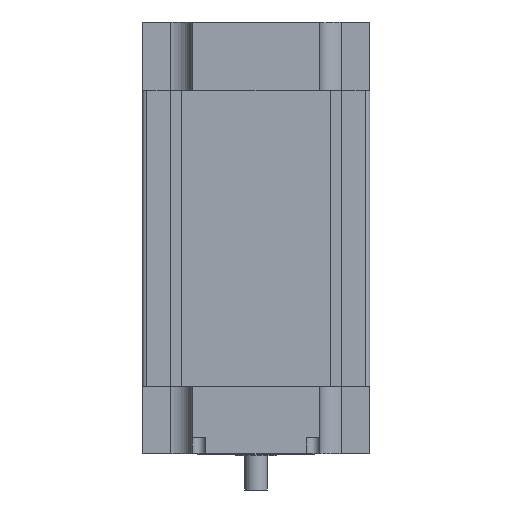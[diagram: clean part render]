
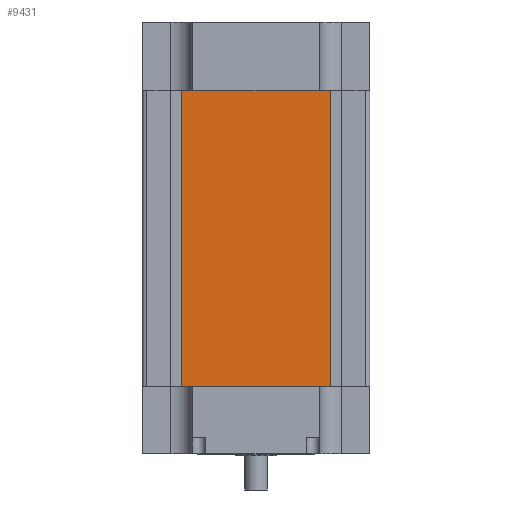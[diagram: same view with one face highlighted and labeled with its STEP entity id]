
A CAD part, front view. The second image highlights one B-rep face of the part: STEP entity #9431.
In plain terms, the highlighted planar face has unit normal (0, -1, 0).
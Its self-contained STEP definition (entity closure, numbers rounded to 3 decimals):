
#593 = VERTEX_POINT ( 'NONE', #5900 ) ;
#645 = VERTEX_POINT ( 'NONE', #5957 ) ;
#911 = EDGE_CURVE ( 'NONE', #645, #593, #6502, .T. ) ;
#1954 = FACE_OUTER_BOUND ( 'NONE', #9423, .T. ) ;
#1971 = PLANE ( 'NONE',  #2004 ) ;
#1973 = DIRECTION ( 'NONE',  ( 0., 0., -1. ) ) ;
#1974 = VECTOR ( 'NONE', #1973, 1000. ) ;
#1975 = CARTESIAN_POINT ( 'NONE',  ( -65., -48.75, 260. ) ) ;
#1976 = LINE ( 'NONE', #1975, #1974 ) ;
#1988 = DIRECTION ( 'NONE',  ( 0., 0., -1. ) ) ;
#1989 = VECTOR ( 'NONE', #1988, 1000. ) ;
#1990 = CARTESIAN_POINT ( 'NONE',  ( 65., -48.75, 260. ) ) ;
#1992 = DIRECTION ( 'NONE',  ( -1., 0., 0. ) ) ;
#1993 = DIRECTION ( 'NONE',  ( 0., 1., 0. ) ) ;
#1995 = LINE ( 'NONE', #1990, #1989 ) ;
#2001 = CARTESIAN_POINT ( 'NONE',  ( -65., -48.75, 260. ) ) ;
#2004 = AXIS2_PLACEMENT_3D ( 'NONE', #2001, #1993, #1992 ) ;
#3924 = EDGE_CURVE ( 'NONE', #3927, #3935, #8316, .T. ) ;
#3927 = VERTEX_POINT ( 'NONE', #8329 ) ;
#3935 = VERTEX_POINT ( 'NONE', #8266 ) ;
#5900 = CARTESIAN_POINT ( 'NONE',  ( 65., -48.75, 0. ) ) ;
#5957 = CARTESIAN_POINT ( 'NONE',  ( -65., -48.75, 0. ) ) ;
#6494 = DIRECTION ( 'NONE',  ( 1., 0., 0. ) ) ;
#6495 = VECTOR ( 'NONE', #6494, 1000. ) ;
#6497 = CARTESIAN_POINT ( 'NONE',  ( -65., -48.75, 0. ) ) ;
#6502 = LINE ( 'NONE', #6497, #6495 ) ;
#8266 = CARTESIAN_POINT ( 'NONE',  ( 65., -48.75, 260. ) ) ;
#8313 = DIRECTION ( 'NONE',  ( 1., 0., 0. ) ) ;
#8314 = VECTOR ( 'NONE', #8313, 1000. ) ;
#8315 = CARTESIAN_POINT ( 'NONE',  ( -65., -48.75, 260. ) ) ;
#8316 = LINE ( 'NONE', #8315, #8314 ) ;
#8329 = CARTESIAN_POINT ( 'NONE',  ( -65., -48.75, 260. ) ) ;
#9382 = ORIENTED_EDGE ( 'NONE', *, *, #911, .T. ) ;
#9406 = EDGE_CURVE ( 'NONE', #3927, #645, #1976, .T. ) ;
#9410 = ORIENTED_EDGE ( 'NONE', *, *, #9432, .F. ) ;
#9415 = ORIENTED_EDGE ( 'NONE', *, *, #9406, .T. ) ;
#9419 = ORIENTED_EDGE ( 'NONE', *, *, #3924, .F. ) ;
#9423 = EDGE_LOOP ( 'NONE', ( #9382, #9410, #9419, #9415 ) ) ;
#9431 = ADVANCED_FACE ( 'NONE', ( #1954 ), #1971, .F. ) ;
#9432 = EDGE_CURVE ( 'NONE', #3935, #593, #1995, .T. ) ;
